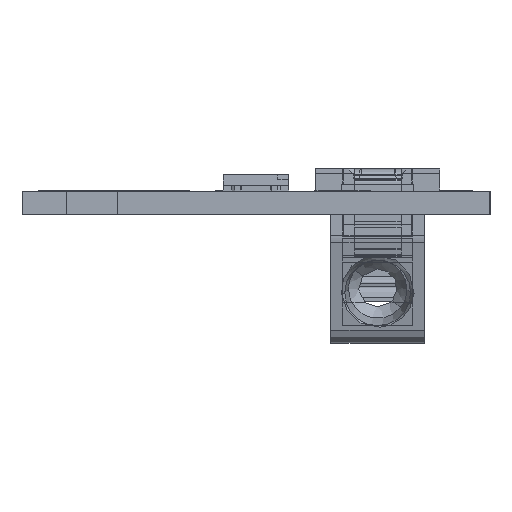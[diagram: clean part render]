
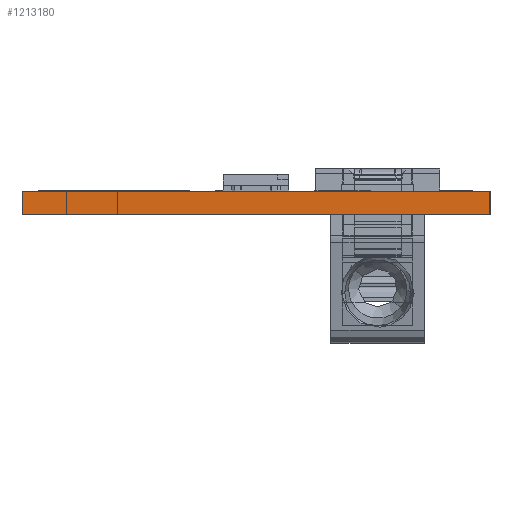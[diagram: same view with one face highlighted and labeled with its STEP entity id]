
A CAD part, left-side view. The second image highlights one B-rep face of the part: STEP entity #1213180.
In plain terms, the highlighted planar face has unit normal (-1, 0, 0).
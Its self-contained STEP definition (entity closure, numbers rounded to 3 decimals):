
#1199830=CARTESIAN_POINT('',(-19.818,146.455,0.));
#1199840=DIRECTION('',(0.,-1.,0.));
#1199850=VECTOR('',#1199840,1.);
#1199860=LINE('',#1199830,#1199850);
#1199870=CARTESIAN_POINT('',(-19.818,146.455,0.));
#1199880=VERTEX_POINT('',#1199870);
#1199890=CARTESIAN_POINT('',(-19.818,126.455,0.));
#1199900=VERTEX_POINT('',#1199890);
#1199910=EDGE_CURVE('',#1199880,#1199900,#1199860,.T.);
#1212750=CARTESIAN_POINT('',(-19.818,126.455,-1.));
#1212760=VERTEX_POINT('',#1212750);
#1212790=CARTESIAN_POINT('',(-19.818,126.455,-1.));
#1212800=DIRECTION('',(0.,0.,1.));
#1212810=VECTOR('',#1212800,1.);
#1212820=LINE('',#1212790,#1212810);
#1212830=EDGE_CURVE('',#1212760,#1199900,#1212820,.T.);
#1212950=CARTESIAN_POINT('',(-19.818,126.455,0.));
#1212960=DIRECTION('',(1.,0.,0.));
#1212970=DIRECTION('',(0.,-1.,0.));
#1212980=AXIS2_PLACEMENT_3D('',#1212950,#1212960,#1212970);
#1212990=PLANE('',#1212980);
#1213000=ORIENTED_EDGE('',*,*,#1199910,.F.);
#1213010=ORIENTED_EDGE('',*,*,#1212830,.T.);
#1213020=CARTESIAN_POINT('',(-19.818,146.455,-1.));
#1213030=DIRECTION('',(0.,-1.,0.));
#1213040=VECTOR('',#1213030,1.);
#1213050=LINE('',#1213020,#1213040);
#1213060=CARTESIAN_POINT('',(-19.818,146.455,-1.));
#1213070=VERTEX_POINT('',#1213060);
#1213080=EDGE_CURVE('',#1213070,#1212760,#1213050,.T.);
#1213090=ORIENTED_EDGE('',*,*,#1213080,.T.);
#1213100=CARTESIAN_POINT('',(-19.818,146.455,-1.));
#1213110=DIRECTION('',(0.,0.,1.));
#1213120=VECTOR('',#1213110,1.);
#1213130=LINE('',#1213100,#1213120);
#1213140=EDGE_CURVE('',#1213070,#1199880,#1213130,.T.);
#1213150=ORIENTED_EDGE('',*,*,#1213140,.F.);
#1213160=EDGE_LOOP('',(#1213150,#1213090,#1213010,#1213000));
#1213170=FACE_OUTER_BOUND('',#1213160,.T.);
#1213180=ADVANCED_FACE('',(#1213170),#1212990,.F.);
